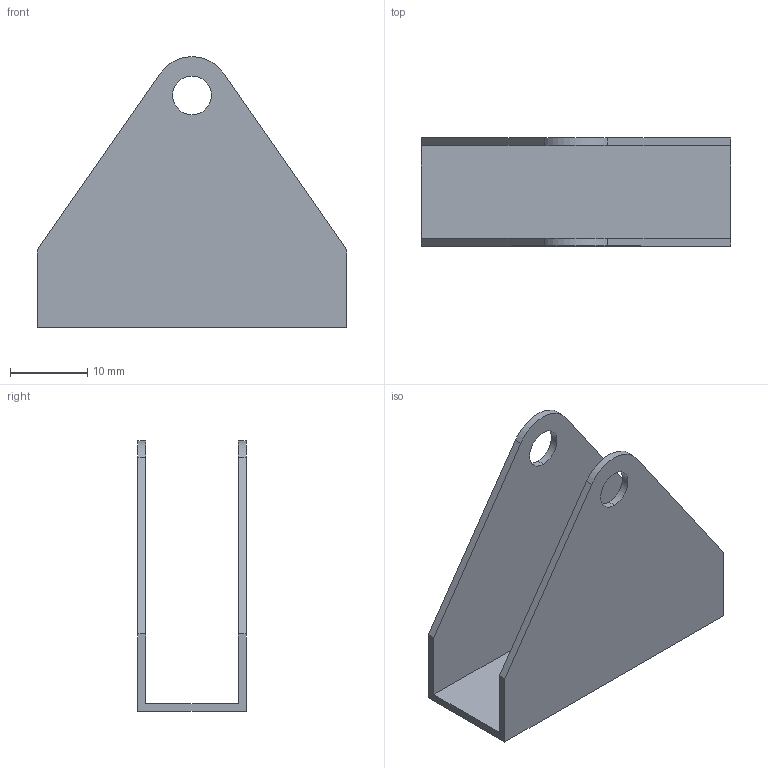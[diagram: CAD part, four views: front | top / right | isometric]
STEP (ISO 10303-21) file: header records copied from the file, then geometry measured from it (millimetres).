
FILE_DESCRIPTION (( 'STEP AP203' ), '1' );
FILE_NAME ('蟈諉輸.STEP', '2024-10-23T13:52:07', ( '' ), ( '' ), 'SwSTEP 2.0', 'SolidWorks 2023', '' );
FILE_SCHEMA (( 'CONFIG_CONTROL_DESIGN' ));
Length unit declared in the file: millimetre
Products named in the file (1): 链接块
Bounding box: 40 x 14 x 35 mm (x, y, z)
Volume: 2367.4 mm3; surface area: 4960.6 mm2
Topology: 1 solids, 1 shells, 18 faces, 48 edges, 32 vertices
Faces by surface type: plane 12, cylinder 6
Entity records: 649 total; most frequent: CARTESIAN_POINT 99, DIRECTION 98, ORIENTED_EDGE 96, EDGE_CURVE 48, VECTOR 36, LINE 36, VERTEX_POINT 32, AXIS2_PLACEMENT_3D 31
